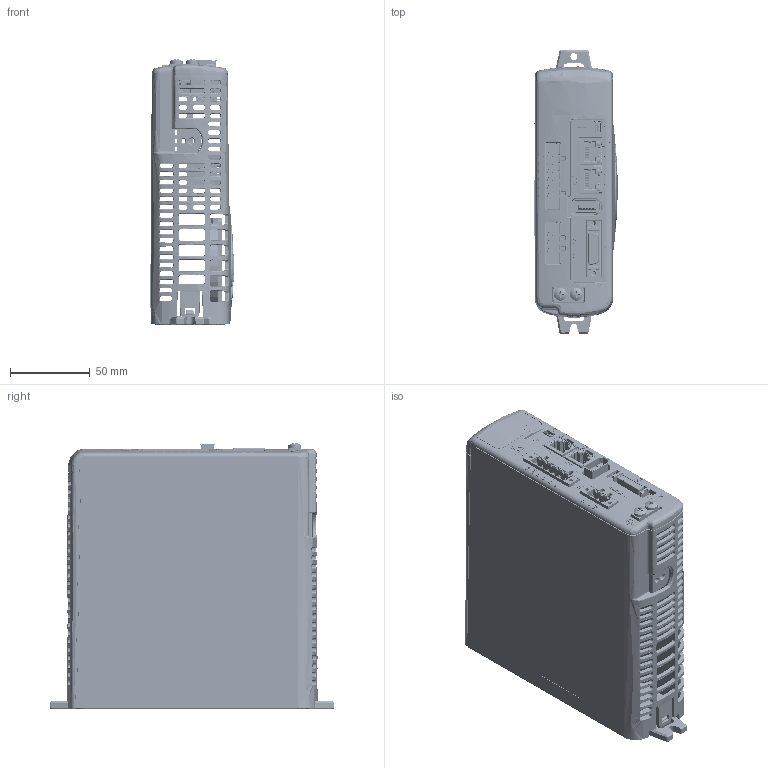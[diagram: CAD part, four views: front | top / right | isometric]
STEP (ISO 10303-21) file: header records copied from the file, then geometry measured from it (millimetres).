
FILE_DESCRIPTION (( 'STEP AP214' ), '1' );
FILE_NAME ('CDHDE_EB-FOR CUSTOMER.STEP', '2021-09-09T06:12:32', ( 'Windows 蚚誧' ), ( '' ), 'SwSTEP 2.0', 'SolidWorks 2016', '' );
FILE_SCHEMA (( 'AUTOMOTIVE_DESIGN' ));
Length unit declared in the file: millimetre
Products named in the file (1): CDHDE_EB-FOR CUSTOMER
Bounding box: 52.1 x 177.87 x 166.16 mm (x, y, z)
Volume: 198033.1 mm3; surface area: 202876.5 mm2
Topology: 141 solids, 141 shells, 13325 faces, 36032 edges, 23155 vertices
Faces by surface type: plane 7636, bspline 2592, cylinder 2484, cone 501, torus 96, sphere 16
Full cylindrical faces by diameter (mm): 0.146 x1, 0.151 x1, 0.167 x1, 0.178 x1, 0.2 x2, 0.254 x4, 0.4 x10, 0.434 x2, 0.5 x61, 0.7 x48, 0.774 x1, 0.8 x32, 0.9 x72, 1 x40, 1.372 x1, 1.4 x9, 1.8 x4, 1.895 x1, 2.4 x4, 2.5 x5, 2.8 x7, 2.85 x2, 3.2 x1, 3.3 x3, 3.4 x1, 4 x2, 4.4 x1, 4.5 x6, 5.24 x1, 6.5 x2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
Entity records: 655053 total; most frequent: CARTESIAN_POINT 194618, ORIENTED_EDGE 70974, DIRECTION 54997, EDGE_CURVE 35487, VERTEX_POINT 23058, VECTOR 22085, LINE 22085, AXIS2_PLACEMENT_3D 16456
